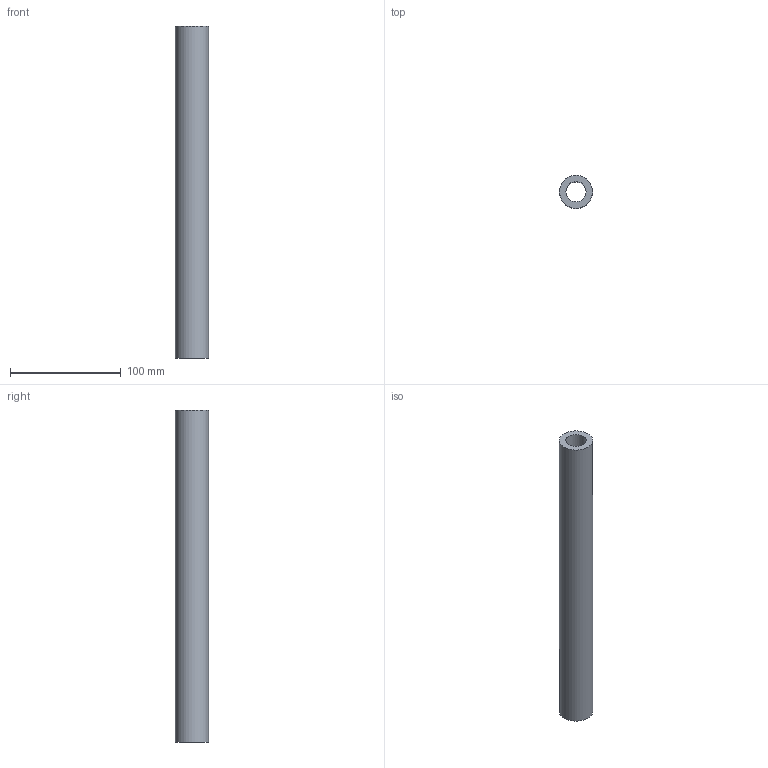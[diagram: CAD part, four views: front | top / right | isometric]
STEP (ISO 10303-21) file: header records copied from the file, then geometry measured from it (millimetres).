
FILE_DESCRIPTION(/* description */ (''),/* implementation_level */ '2;1');
FILE_NAME(/* name */ 'Linear Shaft - Hollow - 30mm - Cut To Size.step',/* time_stamp */ '2024-07-15T10:42:28+03:00',/* author */ (''),/* organization */ (''),/* preprocessor_version */ 'ST-DEVELOPER v20',/* originating_system */ 'Autodesk Translation Framework v13.14.0.145',/* authorisation */ '');
FILE_SCHEMA (('AUTOMOTIVE_DESIGN { 1 0 10303 214 3 1 1 }'));
Length unit declared in the file: millimetre
Products named in the file (1): Linear Shaft - Hollow - 30mm - Cut To Size
Bounding box: 30 x 30 x 300 mm (x, y, z)
Volume: 133150.9 mm3; surface area: 46409.4 mm2
Topology: 1 solids, 1 shells, 4 faces, 6 edges, 4 vertices
Faces by surface type: plane 2, cylinder 2
Full cylindrical faces by diameter (mm): 18.3 x1, 30 x1
Entity records: 131 total; most frequent: DIRECTION 20, CARTESIAN_POINT 15, ORIENTED_EDGE 12, AXIS2_PLACEMENT_3D 9, EDGE_LOOP 6, EDGE_CURVE 6, FACE_OUTER_BOUND 4, CIRCLE 4
